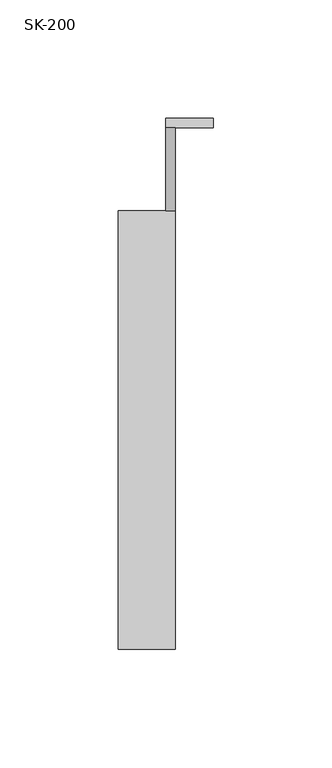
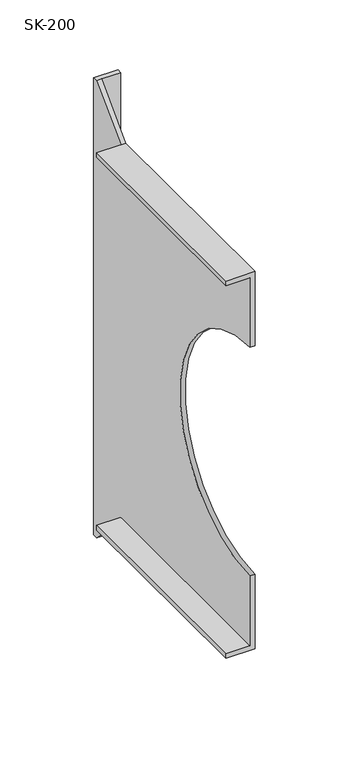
"""IFC4 building model written with IfcOpenShell, lengths in millimetres: duct fitting geometry, СВ_Кронштейн_Круглый_DN100-315_SK : SK-200."""

import ifcopenshell
import ifcopenshell.guid

model = None  # the IFC model being written
_history = None  # IfcOwnerHistory: only IFC2X3 demands one
_inside = {}  # id of a spatial element -> (the spatial element, [elements in it])
_under = {}  # id of a project, library or spatial element -> (it, [spatial elements below it])
_declared = {}  # id of a project -> (the project, [libraries it declares])
_typed = {}  # id of a type object -> (the type object, [elements of that type])
_made_of = {}  # id of a material, layer set ... -> (it, [elements and type objects made of it])


def new_model(schema):
    """Start an empty IFC model of exactly this schema.

    Asked for "IFC4X3", IfcOpenShell would pick the latest addendum, in which some entities
    have other attributes; the version numbers below select the first issue.
    IFC2X3 requires an IfcOwnerHistory on every rooted entity: one is made here for all.
    """
    global model, _history
    if schema == "IFC4X3":
        model = ifcopenshell.file(schema_version=(4, 3, 0, 0))
    else:
        model = ifcopenshell.file(schema=schema)
    _inside.clear()
    _under.clear()
    _declared.clear()
    _typed.clear()
    _made_of.clear()
    _history = None
    if model.schema == "IFC2X3":
        org = make("IfcOrganization", Name="unknown")
        user = make(
            "IfcPersonAndOrganization",
            ThePerson=make("IfcPerson", FamilyName="unknown"),
            TheOrganization=org,
        )
        app = make(
            "IfcApplication",
            ApplicationDeveloper=org,
            Version="unknown",
            ApplicationFullName="unknown",
            ApplicationIdentifier="unknown",
        )
        _history = make(
            "IfcOwnerHistory",
            OwningUser=user,
            OwningApplication=app,
            ChangeAction="ADDED",
            CreationDate=0,
        )
    return model


def make(cls, **values):
    """One entity of the class cls with the attributes given. An attribute that is None is left unset."""
    return model.create_entity(
        cls, **{name: value for name, value in values.items() if value is not None}
    )


def rooted(cls, **values):
    """An entity with a GlobalId (a new one), such as an element, a storey or a relation."""
    return make(cls, GlobalId=ifcopenshell.guid.new(), OwnerHistory=_history, **values)


def si_unit(unit_type, name, prefix=None):
    """IfcSIUnit, for example si_unit("LENGTHUNIT", "METRE", prefix="MILLI")."""
    return make("IfcSIUnit", UnitType=unit_type, Prefix=prefix, Name=name)


def assignment(units):
    """IfcUnitAssignment: the units of a project."""
    return None if units is None else make("IfcUnitAssignment", Units=units)


def point(xyz):
    """IfcCartesianPoint."""
    return None if xyz is None else make("IfcCartesianPoint", Coordinates=xyz)


def direction(xyz):
    """IfcDirection."""
    return None if xyz is None else make("IfcDirection", DirectionRatios=xyz)


def frame(location, z_axis=None, x_axis=None):
    """IfcAxis2Placement3D, a coordinate frame: its origin and axes. An axis left out is left unset."""
    return make(
        "IfcAxis2Placement3D",
        Location=point(location),
        Axis=direction(z_axis),
        RefDirection=direction(x_axis),
    )


def origin():
    """The frame at (0, 0, 0) with its axes left unset."""
    return frame((0.0, 0.0, 0.0))


def place(relative_to, where):
    """IfcLocalPlacement: puts the frame where relative to a parent placement (None: the world)."""
    return make(
        "IfcLocalPlacement", PlacementRelTo=relative_to, RelativePlacement=where
    )


def context(
    kind, dimensions, precision=None, world=None, true_north=None, identifier=None
):
    """IfcGeometricRepresentationContext, for example the 3D "Model" context."""
    return make(
        "IfcGeometricRepresentationContext",
        ContextIdentifier=identifier,
        ContextType=kind,
        CoordinateSpaceDimension=dimensions,
        Precision=precision,
        WorldCoordinateSystem=world,
        TrueNorth=true_north,
    )


def project(units=None, contexts=None):
    """IfcProject with its units and contexts."""
    return rooted(
        "IfcProject",
        Name="project",
        RepresentationContexts=contexts,
        UnitsInContext=assignment(units),
    )


def spatial(cls, under=None, at=None, **own):
    """A site, building, storey or space (cls), placed at a placement, below another one or the project."""
    s = rooted(cls, ObjectPlacement=at, **own)
    if under is not None:
        _under.setdefault(under.id(), (under, []))[1].append(s)
    return s


def polyline(points):
    """IfcPolyline through the points."""
    return make("IfcPolyline", Points=[point(p) for p in points])


def circle_curve(where, radius):
    """IfcCircle in the frame where."""
    return make("IfcCircle", Position=where, Radius=radius)


def shape(context_of_items, identifier, shape_type, items):
    """IfcShapeRepresentation: the items that make up one representation, for example the "Body"."""
    return make(
        "IfcShapeRepresentation",
        ContextOfItems=context_of_items,
        RepresentationIdentifier=identifier,
        RepresentationType=shape_type,
        Items=items,
    )


def source(mapping_origin, context_of_items, identifier, shape_type, items):
    """IfcRepresentationMap: a shape defined once, which mapped items show again and again."""
    return make(
        "IfcRepresentationMap",
        MappingOrigin=mapping_origin,
        MappedRepresentation=shape(context_of_items, identifier, shape_type, items),
    )


def transform(
    local_origin,
    x_axis=None,
    y_axis=None,
    z_axis=None,
    scale=None,
    scale2=None,
    scale3=None,
    uniform=True,
):
    """IfcCartesianTransformationOperator3D, or its non-uniform kind. x_axis, y_axis, z_axis: its Axis1, 2, 3."""
    if uniform:
        return make(
            "IfcCartesianTransformationOperator3D",
            Axis1=direction(x_axis),
            Axis2=direction(y_axis),
            LocalOrigin=point(local_origin),
            Scale=scale,
            Axis3=direction(z_axis),
        )
    return make(
        "IfcCartesianTransformationOperator3DnonUniform",
        Axis1=direction(x_axis),
        Axis2=direction(y_axis),
        LocalOrigin=point(local_origin),
        Scale=scale,
        Axis3=direction(z_axis),
        Scale2=scale2,
        Scale3=scale3,
    )


def mapped(mapping_source, mapping_target):
    """IfcMappedItem: shows the shape of a source again, moved by a transform."""
    return make(
        "IfcMappedItem", MappingSource=mapping_source, MappingTarget=mapping_target
    )


def made_of(thing, what):
    """Note that an element or type object is made of a material, layer set ...; save() writes the relation."""
    if what is not None:
        _made_of.setdefault(what.id(), (what, []))[1].append(thing)
    return thing


def element(
    cls,
    number,
    at=None,
    inside=None,
    cuts=None,
    type_object=None,
    material=None,
    context=None,
    identifier="Body",
    shape_type=None,
    held_by="IfcProductDefinitionShape",
    body=None,
    shapes=None,
    **own,
):
    """One element of the class cls, such as IfcWall. Its Tag is "e" and its number.

    at: its placement. inside: the storey or other place that contains it. cuts: it is an
    opening in that element (IfcRelVoidsElement). A single representation is given by context,
    identifier, shape_type and body (its items); several are given by shapes. held_by: the class
    of the entity that holds the representations. save() writes the other relations.
    """
    e = rooted(cls, Tag="e%d" % number, ObjectPlacement=at, **own)
    if body is not None:
        shapes = [shape(context, identifier, shape_type, body)]
    if shapes is not None:
        e.Representation = make(held_by, Representations=shapes)
    if inside is not None:
        _inside.setdefault(inside.id(), (inside, []))[1].append(e)
    if cuts is not None:
        rooted(
            "IfcRelVoidsElement", RelatingBuildingElement=cuts, RelatedOpeningElement=e
        )
    if type_object is not None:
        _typed.setdefault(type_object.id(), (type_object, []))[1].append(e)
    return made_of(e, material)


def aggregate(whole, parts):
    """IfcRelAggregates: a whole, such as a stair, and the parts it consists of."""
    return rooted("IfcRelAggregates", RelatingObject=whole, RelatedObjects=parts)


def save(model, path):
    """Write the relations noted so far, then the file.

    IfcRelAggregates (storeys below a building ...), IfcRelContainedInSpatialStructure (elements
    in a storey), IfcRelDefinesByType, IfcRelAssociatesMaterial and IfcRelDeclares: one each for
    every whole, place, type object, material and project.
    """
    for whole, parts in _under.values():
        aggregate(whole, parts)
    for where, things in _inside.values():
        rooted(
            "IfcRelContainedInSpatialStructure",
            RelatedElements=things,
            RelatingStructure=where,
        )
    for kind, things in _typed.values():
        rooted("IfcRelDefinesByType", RelatedObjects=things, RelatingType=kind)
    for what, things in _made_of.values():
        rooted("IfcRelAssociatesMaterial", RelatedObjects=things, RelatingMaterial=what)
    for by, libraries in _declared.values():
        rooted("IfcRelDeclares", RelatingContext=by, RelatedDefinitions=libraries)
    model.write(path)


def plane_surface(at):
    """IfcPlane: the flat surface through the origin of the frame at, square to its z axis."""
    return make("IfcPlane", Position=at)


def revolved_surface(curve, axis_point, axis_direction):
    """IfcSurfaceOfRevolution: the curve turned about the line through axis_point along axis_direction."""
    return make(
        "IfcSurfaceOfRevolution",
        SweptCurve=make("IfcArbitraryOpenProfileDef", ProfileType="CURVE", Curve=curve),
        AxisPosition=make("IfcAxis1Placement", Location=point(axis_point), Axis=direction(axis_direction)),
    )


def advanced_brep(points, edges, surfaces, faces):
    """IfcAdvancedBrep: a solid bounded by faces that lie on surfaces and meet in shared edges.

    An edge is (start, end): straight between two places in points (the first is 0);
    or (start, end, curve); or (start, end, curve, False) where it runs against its curve.
    A face is (place in surfaces, loops), or (place, loops, False) where it looks against
    its surface's normal. A loop lists edges by number (the first is 1), with a minus sign
    where the edge is run from its end to its start. The first loop is the outer one.
    """
    corners = [point(p) for p in points]
    vertices = [make("IfcVertexPoint", VertexGeometry=c) for c in corners]
    made = []
    for start, end, *more in edges:
        made.append(
            make(
                "IfcEdgeCurve",
                EdgeStart=vertices[start],
                EdgeEnd=vertices[end],
                EdgeGeometry=more[0] if more else make("IfcPolyline", Points=[corners[start], corners[end]]),
                SameSense=more[1] if len(more) > 1 else True,
            )
        )
    hull = []
    for where, loops, *sense in faces:
        bounds = []
        for j, loop in enumerate(loops):
            ring = [make("IfcOrientedEdge", EdgeElement=made[abs(k) - 1], Orientation=k > 0) for k in loop]
            bounds.append(
                make(
                    "IfcFaceOuterBound" if j == 0 else "IfcFaceBound",
                    Bound=make("IfcEdgeLoop", EdgeList=ring),
                    Orientation=True,
                )
            )
        hull.append(make("IfcAdvancedFace", Bounds=bounds, FaceSurface=surfaces[where], SameSense=sense[0] if sense else True))
    return make("IfcAdvancedBrep", Outer=make("IfcClosedShell", CfsFaces=hull))


def sk_200_4e8135db(model_context):
    return source(origin(), model_context, "Body", "AdvancedBrep", [
        advanced_brep(
        [(4.0, 220.0, 200.0), (4.0, 185.0, 165.0), (4.0, 0.0, 165.0), (4.0, 0.0, 100.0), (4.0, 0.0, -100.0), (4.0, 0.0, -165.0), (4.0, 185.0, -165.0), (4.0, 220.0, -200.0), (0.0, 220.0, -200.0), (0.0, 185.0, -165.0), (0.0, 185.0, -161.0), (0.0, 0.0, -161.0), (0.0, 0.0, -100.0), (0.0, 0.0, 100.0), (0.0, 0.0, 161.0), (0.0, 185.0, 161.0), (0.0, 185.0, 165.0), (0.0, 220.0, 200.0), (0.0, 224.0, 200.0), (0.0, 224.0, -200.0), (-20.0, 185.0, 165.0), (-20.0, 0.0, 165.0), (-20.0, 0.0, 161.0), (-20.0, 0.0, -161.0), (-20.0, 0.0, -165.0), (-20.0, 185.0, -165.0), (-20.0, 185.0, -161.0), (-20.0, 185.0, 161.0), (20.0, 220.0, -200.0), (20.0, 224.0, -200.0), (20.0, 224.0, 200.0), (20.0, 220.0, 200.0)],
        [
            (0, 1),
            (1, 2),
            (2, 3),
            (3, 4, circle_curve(frame((4.0, 0.0, 0.0), z_axis=(-1.0, 0.0, 0.0), x_axis=(0.0, 1.0, 0.0)), 100.0)),
            (4, 5),
            (5, 6),
            (6, 7),
            (7, 0),
            (8, 9),
            (9, 10),
            (10, 11),
            (11, 12),
            (12, 13, circle_curve(frame((0.0, 0.0, 0.0), z_axis=(1.0, 0.0, 0.0), x_axis=(0.0, 1.0, 0.0)), 100.0)),
            (13, 14),
            (14, 15),
            (15, 16),
            (16, 17),
            (17, 18),
            (18, 19),
            (19, 8),
            (0, 17),
            (16, 1),
            (16, 20),
            (20, 21),
            (21, 2),
            (21, 22),
            (22, 14),
            (13, 3),
            (12, 4),
            (11, 23),
            (23, 24),
            (24, 5),
            (24, 25),
            (25, 9),
            (9, 6),
            (8, 7),
            (23, 26),
            (26, 25),
            (27, 22),
            (20, 27),
            (15, 27),
            (26, 10),
            (28, 29),
            (29, 30),
            (30, 31),
            (31, 28),
            (19, 29),
            (28, 7),
            (18, 30),
            (0, 31),
        ],
        [
            plane_surface(frame((4.0, 220.0, 200.0), z_axis=(1.0, 0.0, 0.0), x_axis=(0.0, 0.0, 1.0))),
            plane_surface(frame((0.0, 220.0, 200.0), z_axis=(-1.0, 0.0, 0.0), x_axis=(0.0, 0.0, -1.0))),
            plane_surface(frame((4.0, 220.0, 200.0), z_axis=(0.0, -0.7071067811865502, 0.7071067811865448), x_axis=(-1.0, 0.0, 0.0))),
            plane_surface(frame((4.0, 185.0, 165.0), z_axis=(0.0, 0.0, 1.0), x_axis=(-1.0, 0.0, 0.0))),
            plane_surface(frame((4.0, 0.0, 165.0), z_axis=(0.0, -1.0, 0.0), x_axis=(-1.0, 0.0, 0.0))),
            revolved_surface(polyline([(0.0, 100.0, 0.0), (4.0, 100.0, 0.0)]), (0.0, 0.0, 0.0), (-1.0, 0.0, 0.0)),
            plane_surface(frame((4.0, 0.0, -100.0), z_axis=(0.0, -1.0, 0.0), x_axis=(-1.0, 0.0, 0.0))),
            plane_surface(frame((4.0, 0.0, -165.0), z_axis=(0.0, 0.0, -1.0), x_axis=(-1.0, 0.0, 0.0))),
            plane_surface(frame((4.0, 185.0, -165.0), z_axis=(0.0, -0.7071067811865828, -0.7071067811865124), x_axis=(-1.0, 0.0, 0.0))),
            plane_surface(frame((-20.0, 185.0, 165.0), z_axis=(-1.0, 0.0, 0.0), x_axis=(0.0, 0.0, -1.0))),
            plane_surface(frame((0.0, 185.0, 161.0), z_axis=(0.0, 1.0, 0.0), x_axis=(-1.0, 0.0, 0.0))),
            plane_surface(frame((0.0, 0.0, 161.0), z_axis=(0.0, 0.0, -1.0), x_axis=(-1.0, 0.0, 0.0))),
            plane_surface(frame((0.0, 185.0, -165.0), z_axis=(0.0, 1.0, 0.0), x_axis=(-1.0, 0.0, 0.0))),
            plane_surface(frame((0.0, 185.0, -161.0), z_axis=(0.0, 0.0, 1.0), x_axis=(-1.0, 0.0, 0.0))),
            plane_surface(frame((20.0, 220.0, -200.0), z_axis=(1.0, 0.0, 0.0), x_axis=(0.0, 1.0, 0.0))),
            plane_surface(frame((20.0, 220.0, -200.0), z_axis=(0.0, 0.0, -1.0), x_axis=(-1.0, 0.0, 0.0))),
            plane_surface(frame((20.0, 224.0, -200.0), z_axis=(0.0, 1.0, 0.0), x_axis=(-1.0, 0.0, 0.0))),
            plane_surface(frame((20.0, 224.0, 200.0), z_axis=(0.0, 0.0, 1.0), x_axis=(-1.0, 0.0, 0.0))),
            plane_surface(frame((20.0, 220.0, 200.0), z_axis=(0.0, -1.0, 0.0), x_axis=(-1.0, 0.0, 0.0))),
        ],
        [
            (0, [[1, 2, 3, 4, 5, 6, 7, 8]]),
            (1, [[9, 10, 11, 12, 13, 14, 15, 16, 17, 18, 19, 20]]),
            (2, [[-1, 21, -17, 22]]),
            (3, [[-2, -22, 23, 24, 25]]),
            (4, [[-3, -25, 26, 27, -14, 28]]),
            (5, [[-4, -28, -13, 29]]),
            (6, [[-5, -29, -12, 30, 31, 32]]),
            (7, [[-6, -32, 33, 34, 35]]),
            (8, [[-7, -35, -9, 36]]),
            (9, [[-33, -31, 37, 38]]),
            (9, [[39, -26, -24, 40]]),
            (10, [[-40, -23, -16, 41]]),
            (11, [[-39, -41, -15, -27]]),
            (12, [[-38, 42, -10, -34]]),
            (13, [[-37, -30, -11, -42]]),
            (14, [[43, 44, 45, 46]]),
            (15, [[-20, 47, -43, 48, -36]]),
            (16, [[-19, 49, -44, -47]]),
            (17, [[-18, -21, 50, -45, -49]]),
            (18, [[-46, -50, -8, -48]]),
        ],
    ),
    ])


if __name__ == "__main__":
    model = new_model("IFC4")
    model_context = context("Model", 3, world=origin())
    ifc_project = project(units=[si_unit("LENGTHUNIT", "METRE", prefix="MILLI")], contexts=[model_context])
    site = spatial("IfcSite", under=ifc_project)
    building = spatial("IfcBuilding", under=site)
    placement = place(None, origin())
    sk_200_shape = sk_200_4e8135db(model_context)
    element("IfcDuctFitting", 1, ObjectType="СВ_Кронштейн_Круглый_DN100-315_SK : SK-200", at=placement, inside=building, context=model_context, shape_type="MappedRepresentation", body=[
        mapped(sk_200_shape, transform((0.0, 0.0, 0.0), x_axis=(1.0, 0.0, 0.0), y_axis=(0.0, 1.0, 0.0), z_axis=(0.0, 0.0, 1.0))),
    ])
    save(model, "model.ifc")
